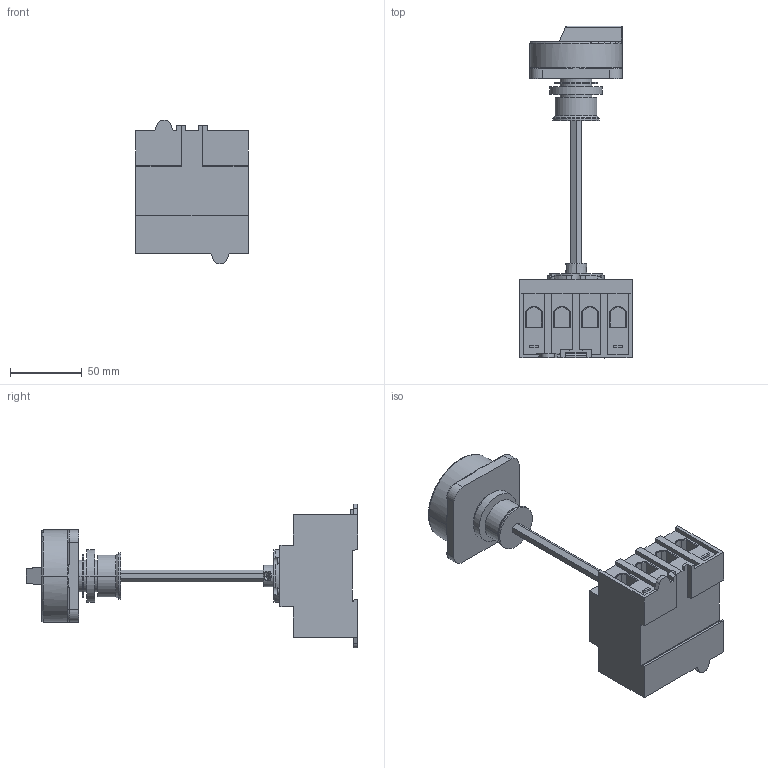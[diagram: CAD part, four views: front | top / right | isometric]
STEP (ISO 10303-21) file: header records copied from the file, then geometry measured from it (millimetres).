
FILE_DESCRIPTION (( 'STEP AP203' ), '1' );
FILE_NAME ('LTS85_100_125 VZVH4 A4.STEP', '2014-05-14T06:44:47', ( '' ), ( '' ), 'SwSTEP 2.0', 'SolidWorks 2014', '' );
FILE_SCHEMA (( 'CONFIG_CONTROL_DESIGN' ));
Length unit declared in the file: millimetre
Products named in the file (6): LTS85_100_125 VZVH4 A4; Schalterkörper LTS125 V; Zwischenring; 8184; Achse TK-LT_100_300; TK2Z H4
Assembly tree (5 placements, depth 2):
  LTS85_100_125 VZVH4 A4
    Schalterkörper LTS125 V
    Zwischenring
    8184
    Achse TK-LT_100_300
    TK2Z H4
Bounding box: 78 x 230.7 x 100 mm (x, y, z)
Volume: 384842.5 mm3; surface area: 70800.7 mm2
Topology: 5 solids, 5 shells, 433 faces, 1099 edges, 693 vertices
Faces by surface type: plane 268, cylinder 105, cone 29, bspline 18, torus 13
Entity records: 14180 total; most frequent: CARTESIAN_POINT 3191, ORIENTED_EDGE 2178, DIRECTION 2134, EDGE_CURVE 1089, AXIS2_PLACEMENT_3D 723, VERTEX_POINT 693, VECTOR 688, LINE 688
